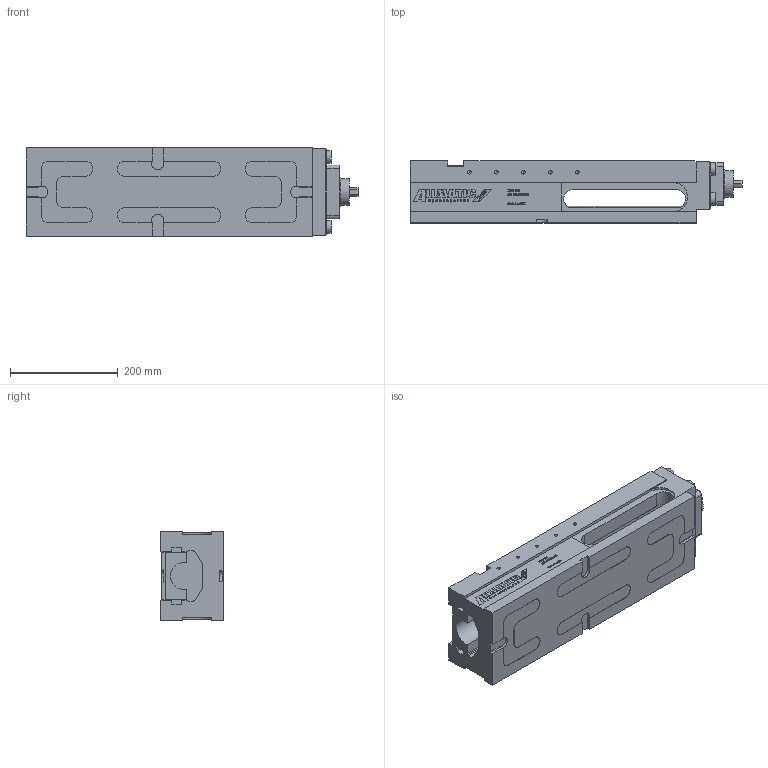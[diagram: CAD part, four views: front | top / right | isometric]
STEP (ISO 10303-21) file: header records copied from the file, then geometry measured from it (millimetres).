
FILE_DESCRIPTION (( 'STEP AP214' ), '1' );
FILE_NAME ('6921928010055.STEP', '2018-01-11T10:59:13', ( 'user' ), ( 'Hewlett-Packard Company' ), 'SwSTEP 2.0', 'SolidWorks 2016', '' );
FILE_SCHEMA (( 'AUTOMOTIVE_DESIGN' ));
Length unit declared in the file: millimetre
Products named in the file (1): 6921928010055
Bounding box: 615 x 115 x 164 mm (x, y, z)
Volume: 7055366.5 mm3; surface area: 671950.9 mm2
Topology: 2 solids, 2 shells, 2084 faces, 5662 edges, 3757 vertices
Faces by surface type: plane 1504, bspline 386, cylinder 146, cone 48
Full cylindrical faces by diameter (mm): 6.8 x10, 10.2 x4, 14 x14, 16 x4, 23 x4, 49.5 x1, 55 x1
Entity records: 108393 total; most frequent: CARTESIAN_POINT 37758, ORIENTED_EDGE 11094, DIRECTION 8463, EDGE_CURVE 5547, VECTOR 4433, LINE 4433, VERTEX_POINT 3724, EDGE_LOOP 2345
